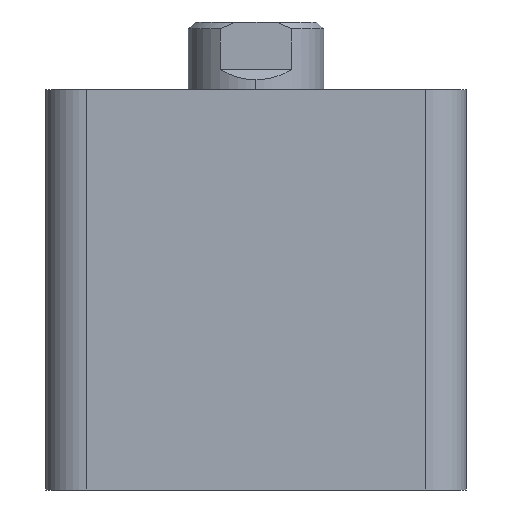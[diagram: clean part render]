
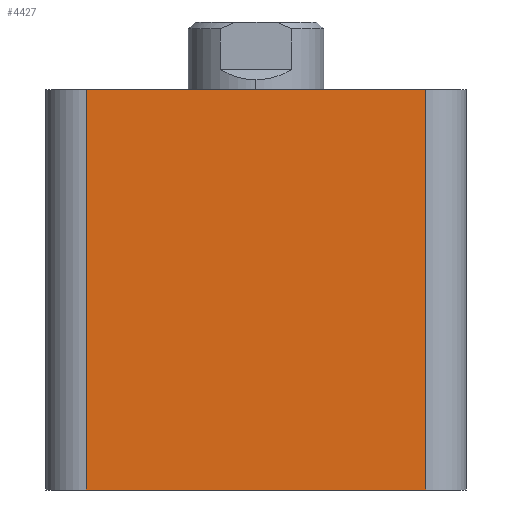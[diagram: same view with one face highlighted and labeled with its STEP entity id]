
A CAD part, left-side view. The second image highlights one B-rep face of the part: STEP entity #4427.
In plain terms, the highlighted planar face has unit normal (-1, 0, 0).
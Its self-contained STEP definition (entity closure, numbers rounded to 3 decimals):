
#311 = LINE ( 'NONE', #988, #318 ) ;
#318 = VECTOR ( 'NONE', #984, 1000. ) ;
#339 = LINE ( 'NONE', #1024, #341 ) ;
#341 = VECTOR ( 'NONE', #1025, 1000. ) ;
#372 = LINE ( 'NONE', #1131, #374 ) ;
#374 = VECTOR ( 'NONE', #1132, 1000. ) ;
#375 = LINE ( 'NONE', #1136, #377 ) ;
#377 = VECTOR ( 'NONE', #1137, 1000. ) ;
#467 = FACE_OUTER_BOUND ( 'NONE', #4980, .T. ) ;
#984 = DIRECTION ( 'NONE',  ( 0., -1., 0. ) ) ;
#988 = CARTESIAN_POINT ( 'NONE',  ( -31., 31., 0. ) ) ;
#1024 = CARTESIAN_POINT ( 'NONE',  ( -31., 25., 59. ) ) ;
#1025 = DIRECTION ( 'NONE',  ( 0., 0., -1. ) ) ;
#1131 = CARTESIAN_POINT ( 'NONE',  ( -31., -25., 59. ) ) ;
#1132 = DIRECTION ( 'NONE',  ( 0., 0., 1. ) ) ;
#1136 = CARTESIAN_POINT ( 'NONE',  ( -31., 31., 59. ) ) ;
#1137 = DIRECTION ( 'NONE',  ( 0., -1., 0. ) ) ;
#1214 = CARTESIAN_POINT ( 'NONE',  ( -31., -25., 0. ) ) ;
#1215 = CARTESIAN_POINT ( 'NONE',  ( -31., 25., 0. ) ) ;
#1237 = CARTESIAN_POINT ( 'NONE',  ( -31., -25., 59. ) ) ;
#1926 = CARTESIAN_POINT ( 'NONE',  ( -31., 25., 59. ) ) ;
#2525 = CARTESIAN_POINT ( 'NONE',  ( -31., 31., 59. ) ) ;
#2527 = PLANE ( 'NONE',  #2986 ) ;
#2529 = DIRECTION ( 'NONE',  ( 1., 0., 0. ) ) ;
#2530 = DIRECTION ( 'NONE',  ( 0., 0., -1. ) ) ;
#2986 = AXIS2_PLACEMENT_3D ( 'NONE', #2525, #2529, #2530 ) ;
#3670 = EDGE_CURVE ( 'NONE', #3862, #3861, #311, .T. ) ;
#3686 = EDGE_CURVE ( 'NONE', #4929, #3862, #339, .T. ) ;
#3712 = EDGE_CURVE ( 'NONE', #3861, #3884, #372, .T. ) ;
#3714 = EDGE_CURVE ( 'NONE', #4929, #3884, #375, .T. ) ;
#3861 = VERTEX_POINT ( 'NONE', #1214 ) ;
#3862 = VERTEX_POINT ( 'NONE', #1215 ) ;
#3884 = VERTEX_POINT ( 'NONE', #1237 ) ;
#4427 = ADVANCED_FACE ( 'NONE', ( #467 ), #2527, .F. ) ;
#4621 = ORIENTED_EDGE ( 'NONE', *, *, #3714, .F. ) ;
#4752 = ORIENTED_EDGE ( 'NONE', *, *, #3686, .T. ) ;
#4916 = ORIENTED_EDGE ( 'NONE', *, *, #3670, .T. ) ;
#4929 = VERTEX_POINT ( 'NONE', #1926 ) ;
#4930 = ORIENTED_EDGE ( 'NONE', *, *, #3712, .T. ) ;
#4980 = EDGE_LOOP ( 'NONE', ( #4916, #4930, #4621, #4752 ) ) ;
